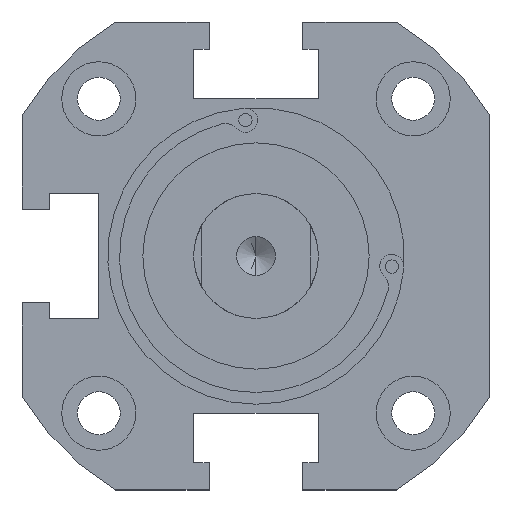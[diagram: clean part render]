
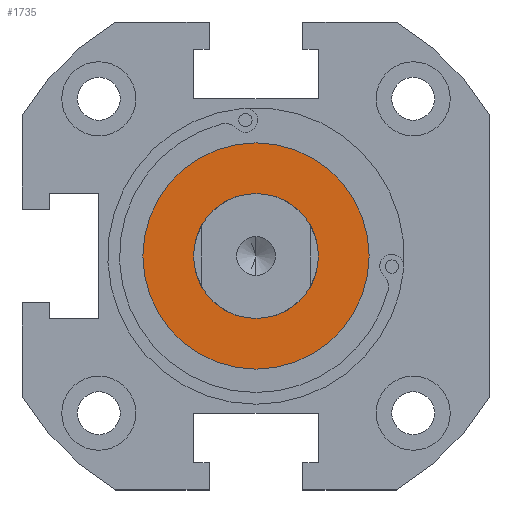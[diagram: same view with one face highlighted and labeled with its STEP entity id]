
A CAD part, front view. The second image highlights one B-rep face of the part: STEP entity #1735.
In plain terms, the highlighted planar face has unit normal (0, -1, 0) as drawn and (0, 1, 0) by its records, which use the part's own axes.
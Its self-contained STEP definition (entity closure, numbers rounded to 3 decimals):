
#4 = EDGE_LOOP ( 'NONE', ( #295, #2315 ) ) ;
#62 = VERTEX_POINT ( 'NONE', #2097 ) ;
#169 = CARTESIAN_POINT ( 'NONE',  ( 0., 0., 0. ) ) ;
#188 = DIRECTION ( 'NONE',  ( 0., 0., 1. ) ) ;
#203 = EDGE_CURVE ( 'NONE', #1034, #556, #739, .T. ) ;
#221 = AXIS2_PLACEMENT_3D ( 'NONE', #2672, #987, #1851 ) ;
#223 = DIRECTION ( 'NONE',  ( 0., 1., 0. ) ) ;
#295 = ORIENTED_EDGE ( 'NONE', *, *, #1963, .T. ) ;
#477 = PLANE ( 'NONE',  #550 ) ;
#550 = AXIS2_PLACEMENT_3D ( 'NONE', #1301, #2136, #188 ) ;
#556 = VERTEX_POINT ( 'NONE', #3158 ) ;
#739 = CIRCLE ( 'NONE', #1715, 8. ) ;
#817 = CARTESIAN_POINT ( 'NONE',  ( 0., 0., 0. ) ) ;
#847 = DIRECTION ( 'NONE',  ( 0., 0., 1. ) ) ;
#912 = AXIS2_PLACEMENT_3D ( 'NONE', #169, #223, #3504 ) ;
#931 = ORIENTED_EDGE ( 'NONE', *, *, #203, .F. ) ;
#987 = DIRECTION ( 'NONE',  ( 0., 1., 0. ) ) ;
#1031 = VERTEX_POINT ( 'NONE', #1170 ) ;
#1034 = VERTEX_POINT ( 'NONE', #2308 ) ;
#1071 = DIRECTION ( 'NONE',  ( 0., 0., 1. ) ) ;
#1170 = CARTESIAN_POINT ( 'NONE',  ( 0., 0., 14.5 ) ) ;
#1218 = AXIS2_PLACEMENT_3D ( 'NONE', #1392, #2251, #847 ) ;
#1301 = CARTESIAN_POINT ( 'NONE',  ( 0., 0., 0. ) ) ;
#1370 = CIRCLE ( 'NONE', #1218, 14.5 ) ;
#1392 = CARTESIAN_POINT ( 'NONE',  ( 0., 0., 0. ) ) ;
#1469 = CIRCLE ( 'NONE', #221, 8. ) ;
#1607 = EDGE_CURVE ( 'NONE', #556, #1034, #1469, .T. ) ;
#1715 = AXIS2_PLACEMENT_3D ( 'NONE', #817, #2194, #1071 ) ;
#1727 = FACE_BOUND ( 'NONE', #1891, .T. ) ;
#1735 = ADVANCED_FACE ( 'NONE', ( #1727, #2443 ), #477, .T. ) ;
#1851 = DIRECTION ( 'NONE',  ( 0., 0., 1. ) ) ;
#1891 = EDGE_LOOP ( 'NONE', ( #931, #2388 ) ) ;
#1963 = EDGE_CURVE ( 'NONE', #1031, #62, #3517, .T. ) ;
#2097 = CARTESIAN_POINT ( 'NONE',  ( 0., 0., -14.5 ) ) ;
#2136 = DIRECTION ( 'NONE',  ( 0., 1., 0. ) ) ;
#2194 = DIRECTION ( 'NONE',  ( 0., 1., 0. ) ) ;
#2251 = DIRECTION ( 'NONE',  ( 0., 1., 0. ) ) ;
#2308 = CARTESIAN_POINT ( 'NONE',  ( 0., 0., -8. ) ) ;
#2315 = ORIENTED_EDGE ( 'NONE', *, *, #2579, .T. ) ;
#2388 = ORIENTED_EDGE ( 'NONE', *, *, #1607, .F. ) ;
#2443 = FACE_OUTER_BOUND ( 'NONE', #4, .T. ) ;
#2579 = EDGE_CURVE ( 'NONE', #62, #1031, #1370, .T. ) ;
#2672 = CARTESIAN_POINT ( 'NONE',  ( 0., 0., 0. ) ) ;
#3158 = CARTESIAN_POINT ( 'NONE',  ( 0., 0., 8. ) ) ;
#3504 = DIRECTION ( 'NONE',  ( 0., 0., 1. ) ) ;
#3517 = CIRCLE ( 'NONE', #912, 14.5 ) ;
